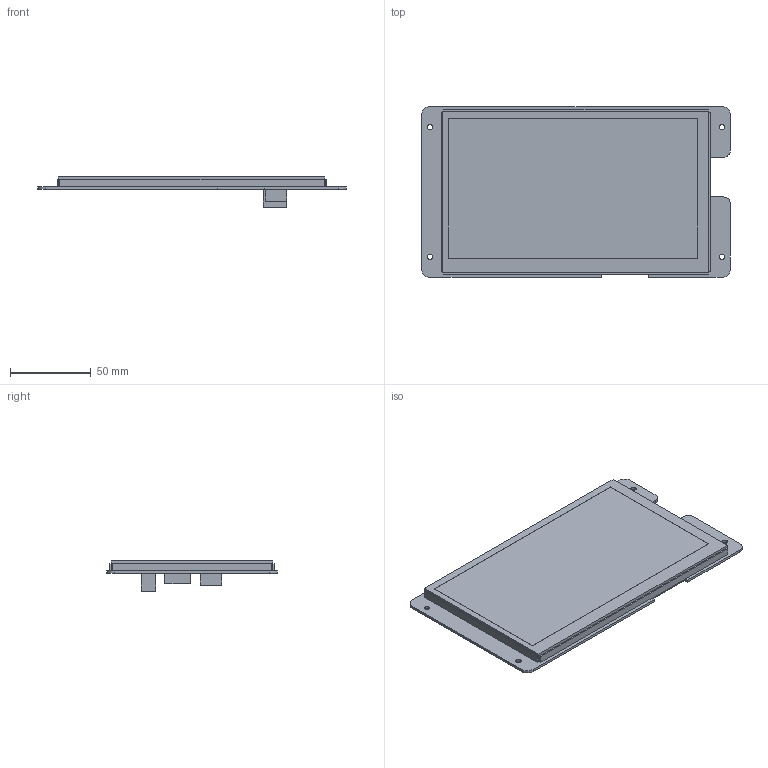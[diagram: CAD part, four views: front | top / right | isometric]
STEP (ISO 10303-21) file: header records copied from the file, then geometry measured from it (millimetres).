
FILE_DESCRIPTION((''),'2;1');
FILE_NAME('HDW070-008LZ05','2022-07-15T',('Administrator'),(''),'PRO/ENGINEER BY PARAMETRIC TECHNOLOGY CORPORATION, 2014320','PRO/ENGINEER BY PARAMETRIC TECHNOLOGY CORPORATION, 2014320','');
FILE_SCHEMA(('CONFIG_CONTROL_DESIGN','SHAPE_APPEARANCE_LAYERS_GROUPS'));
Length unit declared in the file: millimetre
Products named in the file (1): HDW070-008LZ05
Bounding box: 190.5 x 105.41 x 18.88 mm (x, y, z)
Volume: 138198.2 mm3; surface area: 45116.4 mm2
Topology: 1 solids, 1 shells, 80 faces, 210 edges, 136 vertices
Faces by surface type: plane 62, cylinder 18
Entity records: 2530 total; most frequent: CARTESIAN_POINT 426, ORIENTED_EDGE 420, DIRECTION 410, EDGE_CURVE 210, VECTOR 170, LINE 170, VERTEX_POINT 136, AXIS2_PLACEMENT_3D 120
